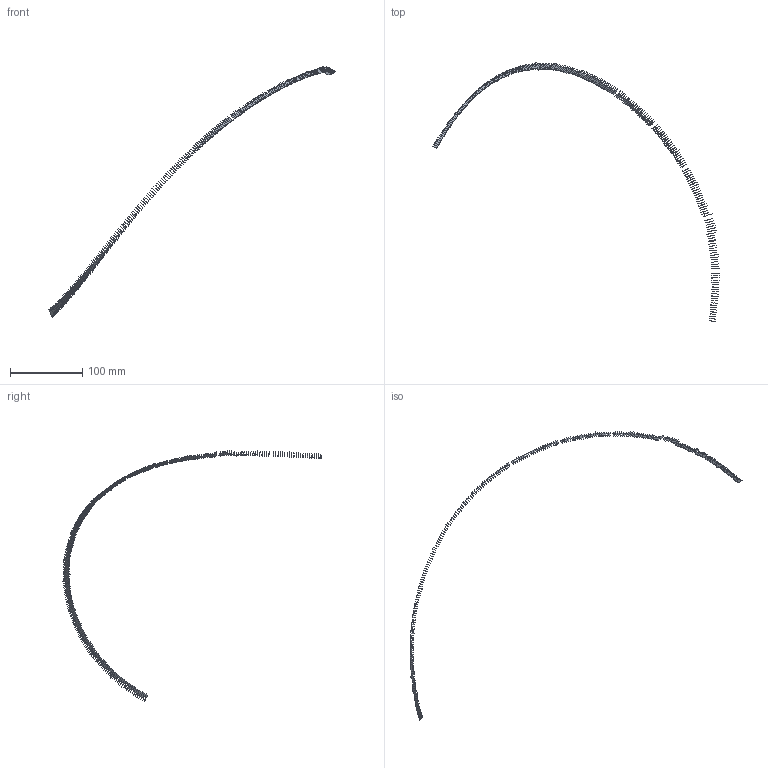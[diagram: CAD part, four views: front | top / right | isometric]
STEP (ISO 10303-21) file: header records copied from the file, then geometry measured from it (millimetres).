
FILE_DESCRIPTION(('FreeCAD Model'),'2;1');
FILE_NAME('Open CASCADE Shape Model','2022-05-22T07:50:28',('FreeCAD'),( 'FreeCAD'),'Open CASCADE STEP processor 7.5','FreeCAD','Unknown');
FILE_SCHEMA(('AUTOMOTIVE_DESIGN { 1 0 10303 214 1 1 1 1 }'));
Length unit declared in the file: millimetre
Products named in the file (245): Open CASCADE STEP translator 7.5 46; Open CASCADE STEP translator 7.5 46.1; Open CASCADE STEP translator 7.5 46.2; Open CASCADE STEP translator 7.5 46.3; Open CASCADE STEP translator 7.5 46.4; Open CASCADE STEP translator 7.5 46.5; Open CASCADE STEP translator 7.5 46.6; Open CASCADE STEP translator 7.5 46.7; Open CASCADE STEP translator 7.5 46.8; Open CASCADE STEP translator 7.5 46.9; Open CASCADE STEP translator 7.5 46.10; Open CASCADE STEP translator 7.5 46.11; Open CASCADE STEP translator 7.5 46.12; Open CASCADE STEP translator 7.5 46.13; Open CASCADE STEP translator 7.5 46.14; Open CASCADE STEP translator 7.5 46.15; Open CASCADE STEP translator 7.5 46.16; Open CASCADE STEP translator 7.5 46.17; Open CASCADE STEP translator 7.5 46.18; Open CASCADE STEP translator 7.5 46.19; Open CASCADE STEP translator 7.5 46.20; Open CASCADE STEP translator 7.5 46.21; Open CASCADE STEP translator 7.5 46.22; Open CASCADE STEP translator 7.5 46.23; Open CASCADE STEP translator 7.5 46.24; Open CASCADE STEP translator 7.5 46.25; Open CASCADE STEP translator 7.5 46.26; Open CASCADE STEP translator 7.5 46.27; Open CASCADE STEP translator 7.5 46.28; Open CASCADE STEP translator 7.5 46.29; Open CASCADE STEP translator 7.5 46.30; Open CASCADE STEP translator 7.5 46.31; Open CASCADE STEP translator 7.5 46.32; Open CASCADE STEP translator 7.5 46.33; Open CASCADE STEP translator 7.5 46.34; Open CASCADE STEP translator 7.5 46.35; Open CASCADE STEP translator 7.5 46.36; Open CASCADE STEP translator 7.5 46.37; Open CASCADE STEP translator 7.5 46.38; Open CASCADE STEP translator 7.5 46.39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
Assembly tree (244 placements, depth 2):
  Open CASCADE STEP translator 7.5 46
    Open CASCADE STEP translator 7.5 46.1
    Open CASCADE STEP translator 7.5 46.2
    Open CASCADE STEP translator 7.5 46.3
    Open CASCADE STEP translator 7.5 46.4
    Open CASCADE STEP translator 7.5 46.5
    Open CASCADE STEP translator 7.5 46.6
    Open CASCADE STEP translator 7.5 46.7
    Open CASCADE STEP translator 7.5 46.8
    Open CASCADE STEP translator 7.5 46.9
    Open CASCADE STEP translator 7.5 46.10
    Open CASCADE STEP translator 7.5 46.11
    Open CASCADE STEP translator 7.5 46.12
    Open CASCADE STEP translator 7.5 46.13
    Open CASCADE STEP translator 7.5 46.14
    Open CASCADE STEP translator 7.5 46.15
    Open CASCADE STEP translator 7.5 46.16
    Open CASCADE STEP translator 7.5 46.17
    Open CASCADE STEP translator 7.5 46.18
    Open CASCADE STEP translator 7.5 46.19
    Open CASCADE STEP translator 7.5 46.20
    Open CASCADE STEP translator 7.5 46.21
    Open CASCADE STEP translator 7.5 46.22
    Open CASCADE STEP translator 7.5 46.23
    Open CASCADE STEP translator 7.5 46.24
    Open CASCADE STEP translator 7.5 46.25
    Open CASCADE STEP translator 7.5 46.26
    Open CASCADE STEP translator 7.5 46.27
    Open CASCADE STEP translator 7.5 46.28
    Open CASCADE STEP translator 7.5 46.29
    Open CASCADE STEP translator 7.5 46.30
    Open CASCADE STEP translator 7.5 46.31
    Open CASCADE STEP translator 7.5 46.32
    Open CASCADE STEP translator 7.5 46.33
    Open CASCADE STEP translator 7.5 46.34
    Open CASCADE STEP translator 7.5 46.35
    Open CASCADE STEP translator 7.5 46.36
    Open CASCADE STEP translator 7.5 46.37
    Open CASCADE STEP translator 7.5 46.38
    Open CASCADE STEP translator 7.5 46.39
    Open CASCADE STEP translator 7.5 46.40
    Open CASCADE STEP translator 7.5 46.41
    Open CASCADE STEP translator 7.5 46.42
    Open CASCADE STEP translator 7.5 46.43
    Open CASCADE STEP translator 7.5 46.44
    Open CASCADE STEP translator 7.5 46.45
    Open CASCADE STEP translator 7.5 46.46
    Open CASCADE STEP translator 7.5 46.47
    Open CASCADE STEP translator 7.5 46.48
    Open CASCADE STEP translator 7.5 46.49
    Open CASCADE STEP translator 7.5 46.50
    Open CASCADE STEP translator 7.5 46.51
    Open CASCADE STEP translator 7.5 46.52
    Open CASCADE STEP translator 7.5 46.53
    Open CASCADE STEP translator 7.5 46.54
    Open CASCADE STEP translator 7.5 46.55
    Open CASCADE STEP translator 7.5 46.56
    Open CASCADE STEP translator 7.5 46.57
    Open CASCADE STEP translator 7.5 46.58
    Open CASCADE STEP translator 7.5 46.59
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Bounding box: 396.29 x 358.52 x 346.68 mm (x, y, z)
Surface area: 7223 mm2 (no closed solid volume)
Topology: 0 solids, 244 shells, 244 faces, 3051 edges, 3051 vertices
Faces by surface type: bspline 244
Entity records: 46511 total; most frequent: CARTESIAN_POINT 16476, B_SPLINE_CURVE_WITH_KNOTS 6102, ORIENTED_EDGE 3051, EDGE_CURVE 3051, VERTEX_POINT 3051, SURFACE_CURVE 3051, PCURVE 3051, DEFINITIONAL_REPRESENTATION 3051
